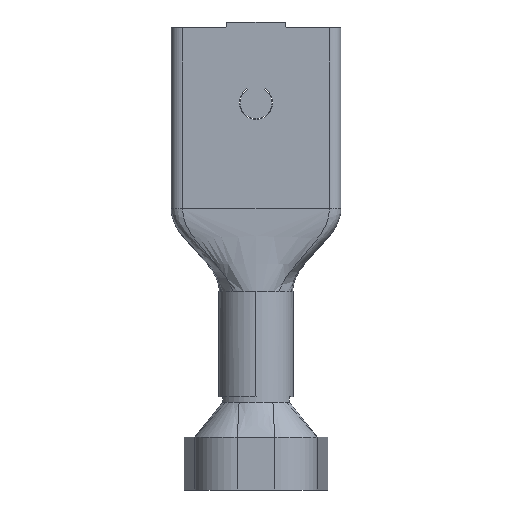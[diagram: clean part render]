
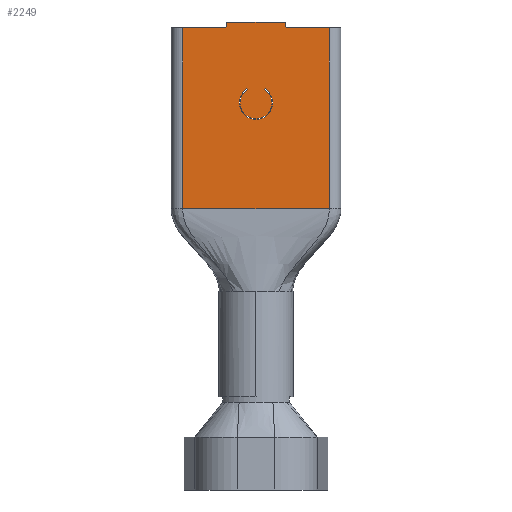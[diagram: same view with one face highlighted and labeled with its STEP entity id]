
A CAD part, front view. The second image highlights one B-rep face of the part: STEP entity #2249.
In plain terms, the highlighted planar face has unit normal (0, -1, 0).
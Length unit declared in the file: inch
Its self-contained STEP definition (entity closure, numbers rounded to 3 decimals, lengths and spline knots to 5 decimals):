
#363=CARTESIAN_POINT('',(0.,0.,-0.1285));
#364=DIRECTION('',(0.,-1.,0.));
#365=DIRECTION('',(-0.545,0.,0.838));
#366=AXIS2_PLACEMENT_3D('',#363,#364,#365);
#368=DIRECTION('',(-0.545,0.,-0.838));
#369=VECTOR('',#368,0.001);
#370=CARTESIAN_POINT('',(0.01555,0.,-0.10461));
#371=LINE('',#370,#369);
#372=CARTESIAN_POINT('',(0.,0.,-0.1285));
#373=DIRECTION('',(0.,-1.,0.));
#374=DIRECTION('',(-0.545,0.,0.838));
#375=AXIS2_PLACEMENT_3D('',#372,#373,#374);
#377=DIRECTION('',(-0.545,0.,0.838));
#378=VECTOR('',#377,0.001);
#379=CARTESIAN_POINT('',(-0.015,0.,-0.10545));
#380=LINE('',#379,#378);
#381=DIRECTION('',(0.,0.,-1.));
#382=VECTOR('',#381,0.31);
#383=CARTESIAN_POINT('',(-0.1255,0.,0.));
#384=LINE('',#383,#382);
#385=CARTESIAN_POINT('',(-0.055,0.,0.005));
#386=DIRECTION('',(0.,-1.,0.));
#387=DIRECTION('',(0.,0.,-1.));
#388=AXIS2_PLACEMENT_3D('',#385,#386,#387);
#390=DIRECTION('',(0.,0.,1.));
#391=VECTOR('',#390,0.005);
#392=CARTESIAN_POINT('',(-0.05,0.,0.005));
#393=LINE('',#392,#391);
#394=DIRECTION('',(1.,0.,0.));
#395=VECTOR('',#394,0.1);
#396=CARTESIAN_POINT('',(-0.05,0.,0.01));
#397=LINE('',#396,#395);
#398=DIRECTION('',(0.,0.,-1.));
#399=VECTOR('',#398,0.005);
#400=CARTESIAN_POINT('',(0.05,0.,0.01));
#401=LINE('',#400,#399);
#402=CARTESIAN_POINT('',(0.055,0.,0.005));
#403=DIRECTION('',(0.,-1.,0.));
#404=DIRECTION('',(-1.,0.,0.));
#405=AXIS2_PLACEMENT_3D('',#402,#403,#404);
#407=DIRECTION('',(-1.,0.,0.));
#408=VECTOR('',#407,0.251);
#409=CARTESIAN_POINT('',(0.1255,0.,-0.31));
#410=LINE('',#409,#408);
#556=DIRECTION('',(1.,0.,0.));
#557=VECTOR('',#556,0.0705);
#558=CARTESIAN_POINT('',(0.055,0.,0.));
#559=LINE('',#558,#557);
#564=DIRECTION('',(1.,0.,0.));
#565=VECTOR('',#564,0.0705);
#566=CARTESIAN_POINT('',(-0.1255,0.,0.));
#567=LINE('',#566,#565);
#952=DIRECTION('',(0.,0.,-1.));
#953=VECTOR('',#952,0.31);
#954=CARTESIAN_POINT('',(0.1255,0.,0.));
#955=LINE('',#954,#953);
#1054=CARTESIAN_POINT('',(0.1255,0.,0.));
#1056=VERTEX_POINT('',#1054);
#1092=CARTESIAN_POINT('',(-0.1255,0.,0.));
#1093=VERTEX_POINT('',#1092);
#1118=CARTESIAN_POINT('',(-0.05,0.,0.005));
#1119=CARTESIAN_POINT('',(-0.05,0.,0.01));
#1120=VERTEX_POINT('',#1118);
#1121=VERTEX_POINT('',#1119);
#1122=CARTESIAN_POINT('',(0.05,0.,0.01));
#1123=VERTEX_POINT('',#1122);
#1124=CARTESIAN_POINT('',(0.05,0.,0.005));
#1125=VERTEX_POINT('',#1124);
#1134=CARTESIAN_POINT('',(0.055,0.,0.));
#1136=VERTEX_POINT('',#1134);
#1138=CARTESIAN_POINT('',(-0.055,0.,0.));
#1140=VERTEX_POINT('',#1138);
#1190=CARTESIAN_POINT('',(-0.01555,0.,-0.10461));
#1191=CARTESIAN_POINT('',(0.01555,0.,-0.10461));
#1192=VERTEX_POINT('',#1190);
#1193=VERTEX_POINT('',#1191);
#1194=CARTESIAN_POINT('',(0.015,0.,-0.10545));
#1195=VERTEX_POINT('',#1194);
#1196=CARTESIAN_POINT('',(-0.015,0.,-0.10545));
#1197=VERTEX_POINT('',#1196);
#1270=CARTESIAN_POINT('',(-0.1255,0.,-0.31));
#1271=VERTEX_POINT('',#1270);
#1272=CARTESIAN_POINT('',(0.1255,0.,-0.31));
#1273=VERTEX_POINT('',#1272);
#2213=CARTESIAN_POINT('',(-0.1255,0.,0.));
#2214=DIRECTION('',(0.,-1.,0.));
#2215=DIRECTION('',(1.,0.,0.));
#2216=AXIS2_PLACEMENT_3D('',#2213,#2214,#2215);
#2217=PLANE('',#2216);
#2219=ORIENTED_EDGE('',*,*,#2218,.F.);
#2221=ORIENTED_EDGE('',*,*,#2220,.T.);
#2223=ORIENTED_EDGE('',*,*,#2222,.T.);
#2225=ORIENTED_EDGE('',*,*,#2224,.T.);
#2227=ORIENTED_EDGE('',*,*,#2226,.T.);
#2229=ORIENTED_EDGE('',*,*,#2228,.T.);
#2231=ORIENTED_EDGE('',*,*,#2230,.T.);
#2233=ORIENTED_EDGE('',*,*,#2232,.T.);
#2235=ORIENTED_EDGE('',*,*,#2234,.T.);
#2236=ORIENTED_EDGE('',*,*,#2201,.T.);
#2237=EDGE_LOOP('',(#2219,#2221,#2223,#2225,#2227,#2229,#2231,#2233,#2235,
#2236));
#2238=FACE_OUTER_BOUND('',#2237,.F.);
#2240=ORIENTED_EDGE('',*,*,#2239,.T.);
#2242=ORIENTED_EDGE('',*,*,#2241,.T.);
#2244=ORIENTED_EDGE('',*,*,#2243,.F.);
#2246=ORIENTED_EDGE('',*,*,#2245,.T.);
#2247=EDGE_LOOP('',(#2240,#2242,#2244,#2246));
#2248=FACE_BOUND('',#2247,.F.);
#2249=ADVANCED_FACE('',(#2238,#2248),#2217,.T.);
#367=CIRCLE('',#366,0.0285);
#376=CIRCLE('',#375,0.0275);
#389=CIRCLE('',#388,0.005);
#406=CIRCLE('',#405,0.005);
#2201=EDGE_CURVE('',#1273,#1271,#410,.T.);
#2218=EDGE_CURVE('',#1093,#1271,#384,.T.);
#2220=EDGE_CURVE('',#1093,#1140,#567,.T.);
#2222=EDGE_CURVE('',#1140,#1120,#389,.T.);
#2224=EDGE_CURVE('',#1120,#1121,#393,.T.);
#2226=EDGE_CURVE('',#1121,#1123,#397,.T.);
#2228=EDGE_CURVE('',#1123,#1125,#401,.T.);
#2230=EDGE_CURVE('',#1125,#1136,#406,.T.);
#2232=EDGE_CURVE('',#1136,#1056,#559,.T.);
#2234=EDGE_CURVE('',#1056,#1273,#955,.T.);
#2239=EDGE_CURVE('',#1192,#1193,#367,.T.);
#2241=EDGE_CURVE('',#1193,#1195,#371,.T.);
#2243=EDGE_CURVE('',#1197,#1195,#376,.T.);
#2245=EDGE_CURVE('',#1197,#1192,#380,.T.);
